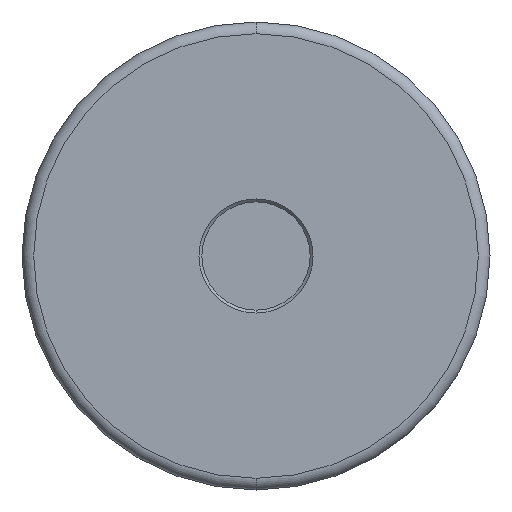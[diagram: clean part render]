
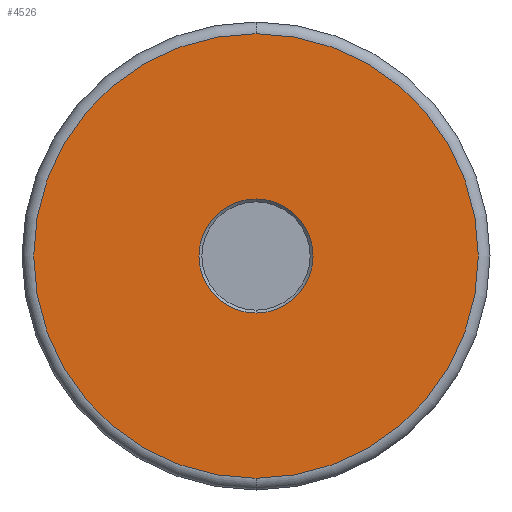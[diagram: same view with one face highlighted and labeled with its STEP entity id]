
A CAD part, front view. The second image highlights one B-rep face of the part: STEP entity #4526.
In plain terms, the highlighted planar face has unit normal (0, -1, 0).
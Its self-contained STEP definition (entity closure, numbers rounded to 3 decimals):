
#69 = CARTESIAN_POINT ( 'NONE',  ( 0., 0., -9.75 ) ) ;
#111 = VERTEX_POINT ( 'NONE', #69 ) ;
#350 = DIRECTION ( 'NONE',  ( 0., 0., 1. ) ) ;
#501 = ORIENTED_EDGE ( 'NONE', *, *, #3616, .F. ) ;
#759 = EDGE_CURVE ( 'NONE', #111, #2401, #3974, .T. ) ;
#885 = DIRECTION ( 'NONE',  ( 0., 0., 1. ) ) ;
#978 = ORIENTED_EDGE ( 'NONE', *, *, #759, .T. ) ;
#1081 = ORIENTED_EDGE ( 'NONE', *, *, #5859, .F. ) ;
#1092 = EDGE_CURVE ( 'NONE', #2401, #111, #4358, .T. ) ;
#1206 = DIRECTION ( 'NONE',  ( 0., 0., -1. ) ) ;
#1404 = CARTESIAN_POINT ( 'NONE',  ( 0., 0., 0. ) ) ;
#1856 = DIRECTION ( 'NONE',  ( 0., 1., 0. ) ) ;
#2090 = CARTESIAN_POINT ( 'NONE',  ( 0., 0., -38. ) ) ;
#2162 = FACE_OUTER_BOUND ( 'NONE', #4399, .T. ) ;
#2203 = CARTESIAN_POINT ( 'NONE',  ( -9.75, 0., 0. ) ) ;
#2323 = AXIS2_PLACEMENT_3D ( 'NONE', #5541, #3485, #5509 ) ;
#2401 = VERTEX_POINT ( 'NONE', #5396 ) ;
#2549 = VERTEX_POINT ( 'NONE', #4581 ) ;
#2710 = PLANE ( 'NONE',  #5278 ) ;
#2813 = CARTESIAN_POINT ( 'NONE',  ( 0., 0., 0. ) ) ;
#3432 = CARTESIAN_POINT ( 'NONE',  ( 0., 0., 0. ) ) ;
#3485 = DIRECTION ( 'NONE',  ( 0., 1., 0. ) ) ;
#3616 = EDGE_CURVE ( 'NONE', #3987, #2549, #5299, .T. ) ;
#3727 = DIRECTION ( 'NONE',  ( 0., -1., 0. ) ) ;
#3974 = CIRCLE ( 'NONE', #4830, 9.75 ) ;
#3987 = VERTEX_POINT ( 'NONE', #2090 ) ;
#4165 = FACE_BOUND ( 'NONE', #5627, .T. ) ;
#4358 = CIRCLE ( 'NONE', #6298, 9.75 ) ;
#4399 = EDGE_LOOP ( 'NONE', ( #1081, #501 ) ) ;
#4526 = ADVANCED_FACE ( 'NONE', ( #2162, #4165 ), #2710, .T. ) ;
#4581 = CARTESIAN_POINT ( 'NONE',  ( 0., 0., 38. ) ) ;
#4749 = DIRECTION ( 'NONE',  ( 0., 1., 0. ) ) ;
#4830 = AXIS2_PLACEMENT_3D ( 'NONE', #3432, #1856, #350 ) ;
#5278 = AXIS2_PLACEMENT_3D ( 'NONE', #2203, #3727, #1206 ) ;
#5299 = CIRCLE ( 'NONE', #2323, 38. ) ;
#5389 = ORIENTED_EDGE ( 'NONE', *, *, #1092, .T. ) ;
#5396 = CARTESIAN_POINT ( 'NONE',  ( 0., 0., 9.75 ) ) ;
#5437 = DIRECTION ( 'NONE',  ( 0., 1., 0. ) ) ;
#5509 = DIRECTION ( 'NONE',  ( 0., 0., 1. ) ) ;
#5541 = CARTESIAN_POINT ( 'NONE',  ( 0., 0., 0. ) ) ;
#5627 = EDGE_LOOP ( 'NONE', ( #978, #5389 ) ) ;
#5793 = DIRECTION ( 'NONE',  ( 0., 0., 1. ) ) ;
#5859 = EDGE_CURVE ( 'NONE', #2549, #3987, #6030, .T. ) ;
#6030 = CIRCLE ( 'NONE', #6367, 38. ) ;
#6298 = AXIS2_PLACEMENT_3D ( 'NONE', #2813, #4749, #5793 ) ;
#6367 = AXIS2_PLACEMENT_3D ( 'NONE', #1404, #5437, #885 ) ;
